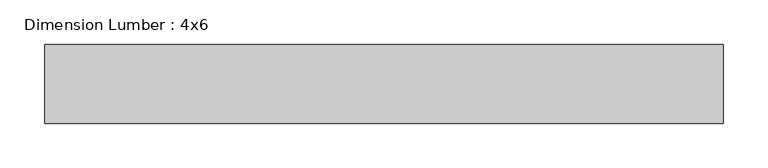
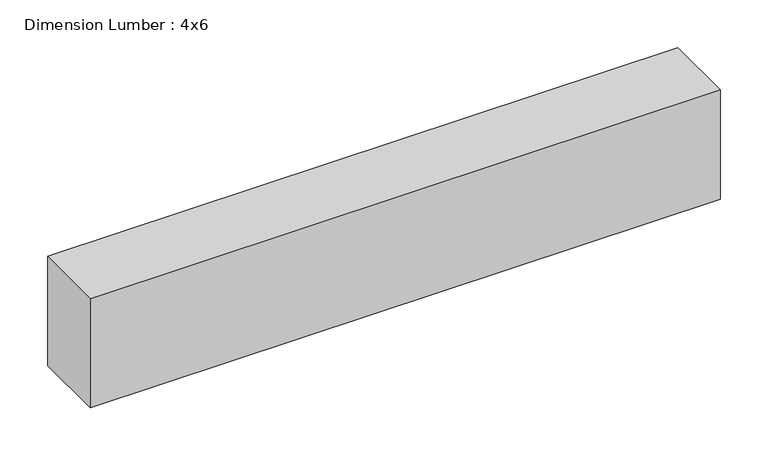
"""IFC4 building model written with IfcOpenShell, lengths in millimetres: beam geometry, Dimension Lumber : 4x6."""

from ifc_helpers import new_model, si_unit, frame, origin, place, context, project, spatial, polyline, outline, extrude, source, transform, mapped, element, save


def dimension_lumber_4x6_a25f3708(model_context):
    return source(origin(), model_context, "Body", "SweptSolid", [
        extrude(outline(polyline([(381.0, 44.45), (381.0, -44.45), (-381.0, -44.45), (-381.0, 44.45), (381.0, 44.45)])), frame((0.0, 0.0, -69.85), z_axis=(0.0, 0.0, 1.0), x_axis=(1.0, 0.0, 0.0)), (0.0, 0.0, 1.0), 139.7),
    ])


if __name__ == "__main__":
    model = new_model("IFC4")
    model_context = context("Model", 3, world=origin())
    ifc_project = project(units=[si_unit("LENGTHUNIT", "METRE", prefix="MILLI")], contexts=[model_context])
    site = spatial("IfcSite", under=ifc_project)
    building = spatial("IfcBuilding", under=site)
    placement = place(None, origin())
    dimension_lumber_4x6_shape = dimension_lumber_4x6_a25f3708(model_context)
    element("IfcBeam", 1, ObjectType="Dimension Lumber : 4x6", at=placement, inside=building, context=model_context, shape_type="MappedRepresentation", body=[
        mapped(dimension_lumber_4x6_shape, transform((0.0, 0.0, 0.0), x_axis=(1.0, 0.0, 0.0), y_axis=(0.0, 1.0, 0.0), z_axis=(0.0, 0.0, 1.0))),
    ])
    save(model, "model.ifc")
